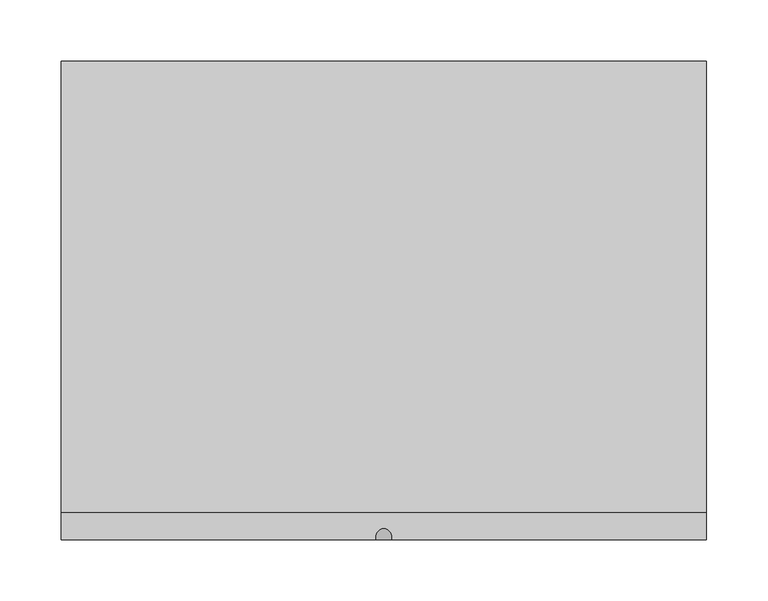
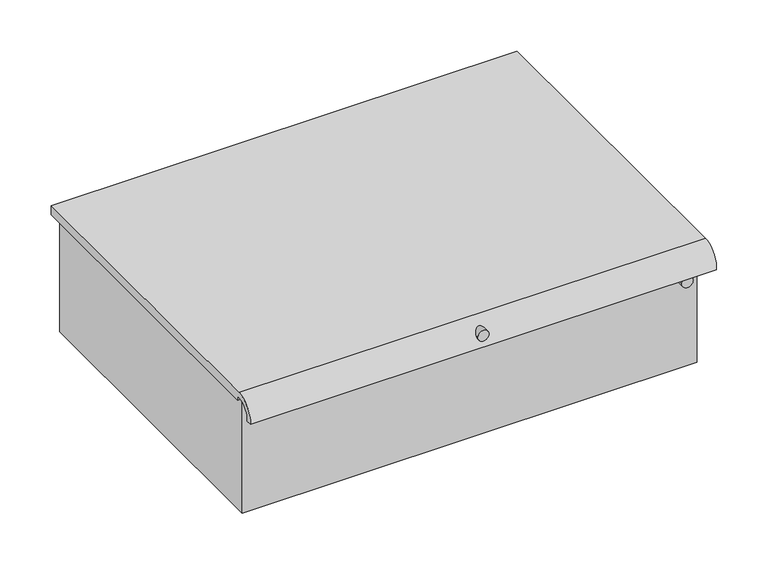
"""IFC4 building model written with IfcOpenShell, lengths in millimetres: furniture geometry."""

import ifcopenshell
import ifcopenshell.guid

model = None  # the IFC model being written
_history = None  # IfcOwnerHistory: only IFC2X3 demands one
_inside = {}  # id of a spatial element -> (the spatial element, [elements in it])
_under = {}  # id of a project, library or spatial element -> (it, [spatial elements below it])
_declared = {}  # id of a project -> (the project, [libraries it declares])
_typed = {}  # id of a type object -> (the type object, [elements of that type])
_made_of = {}  # id of a material, layer set ... -> (it, [elements and type objects made of it])


def new_model(schema):
    """Start an empty IFC model of exactly this schema.

    Asked for "IFC4X3", IfcOpenShell would pick the latest addendum, in which some entities
    have other attributes; the version numbers below select the first issue.
    IFC2X3 requires an IfcOwnerHistory on every rooted entity: one is made here for all.
    """
    global model, _history
    if schema == "IFC4X3":
        model = ifcopenshell.file(schema_version=(4, 3, 0, 0))
    else:
        model = ifcopenshell.file(schema=schema)
    _inside.clear()
    _under.clear()
    _declared.clear()
    _typed.clear()
    _made_of.clear()
    _history = None
    if model.schema == "IFC2X3":
        org = make("IfcOrganization", Name="unknown")
        user = make(
            "IfcPersonAndOrganization",
            ThePerson=make("IfcPerson", FamilyName="unknown"),
            TheOrganization=org,
        )
        app = make(
            "IfcApplication",
            ApplicationDeveloper=org,
            Version="unknown",
            ApplicationFullName="unknown",
            ApplicationIdentifier="unknown",
        )
        _history = make(
            "IfcOwnerHistory",
            OwningUser=user,
            OwningApplication=app,
            ChangeAction="ADDED",
            CreationDate=0,
        )
    return model


def make(cls, **values):
    """One entity of the class cls with the attributes given. An attribute that is None is left unset."""
    return model.create_entity(
        cls, **{name: value for name, value in values.items() if value is not None}
    )


def rooted(cls, **values):
    """An entity with a GlobalId (a new one), such as an element, a storey or a relation."""
    return make(cls, GlobalId=ifcopenshell.guid.new(), OwnerHistory=_history, **values)


def si_unit(unit_type, name, prefix=None):
    """IfcSIUnit, for example si_unit("LENGTHUNIT", "METRE", prefix="MILLI")."""
    return make("IfcSIUnit", UnitType=unit_type, Prefix=prefix, Name=name)


def assignment(units):
    """IfcUnitAssignment: the units of a project."""
    return None if units is None else make("IfcUnitAssignment", Units=units)


def point(xyz):
    """IfcCartesianPoint."""
    return None if xyz is None else make("IfcCartesianPoint", Coordinates=xyz)


def direction(xyz):
    """IfcDirection."""
    return None if xyz is None else make("IfcDirection", DirectionRatios=xyz)


def frame(location, z_axis=None, x_axis=None):
    """IfcAxis2Placement3D, a coordinate frame: its origin and axes. An axis left out is left unset."""
    return make(
        "IfcAxis2Placement3D",
        Location=point(location),
        Axis=direction(z_axis),
        RefDirection=direction(x_axis),
    )


def frame_2d(location, x_axis=None):
    """IfcAxis2Placement2D, a coordinate frame in the plane: its origin and x axis."""
    return make(
        "IfcAxis2Placement2D", Location=point(location), RefDirection=direction(x_axis)
    )


def origin():
    """The frame at (0, 0, 0) with its axes left unset."""
    return frame((0.0, 0.0, 0.0))


def place(relative_to, where):
    """IfcLocalPlacement: puts the frame where relative to a parent placement (None: the world)."""
    return make(
        "IfcLocalPlacement", PlacementRelTo=relative_to, RelativePlacement=where
    )


def context(
    kind, dimensions, precision=None, world=None, true_north=None, identifier=None
):
    """IfcGeometricRepresentationContext, for example the 3D "Model" context."""
    return make(
        "IfcGeometricRepresentationContext",
        ContextIdentifier=identifier,
        ContextType=kind,
        CoordinateSpaceDimension=dimensions,
        Precision=precision,
        WorldCoordinateSystem=world,
        TrueNorth=true_north,
    )


def project(units=None, contexts=None):
    """IfcProject with its units and contexts."""
    return rooted(
        "IfcProject",
        Name="project",
        RepresentationContexts=contexts,
        UnitsInContext=assignment(units),
    )


def spatial(cls, under=None, at=None, **own):
    """A site, building, storey or space (cls), placed at a placement, below another one or the project."""
    s = rooted(cls, ObjectPlacement=at, **own)
    if under is not None:
        _under.setdefault(under.id(), (under, []))[1].append(s)
    return s


def polyline(points):
    """IfcPolyline through the points."""
    return make("IfcPolyline", Points=[point(p) for p in points])


def circle_curve(where, radius):
    """IfcCircle in the frame where."""
    return make("IfcCircle", Position=where, Radius=radius)


def trimmed(basis, trim1, trim2, sense, master):
    """IfcTrimmedCurve: the piece of a basis curve between two trims."""
    return make(
        "IfcTrimmedCurve",
        BasisCurve=basis,
        Trim1=trim1,
        Trim2=trim2,
        SenseAgreement=sense,
        MasterRepresentation=master,
    )


def segment(curve, same_sense, transition):
    """IfcCompositeCurveSegment."""
    return make(
        "IfcCompositeCurveSegment",
        Transition=transition,
        SameSense=same_sense,
        ParentCurve=curve,
    )


def composite_curve(segments, self_intersect=None):
    """IfcCompositeCurve: segments joined end to end."""
    return make("IfcCompositeCurve", Segments=segments, SelfIntersect=self_intersect)


def outline(outer, holes=None, kind="AREA"):
    """IfcArbitraryClosedProfileDef: a profile drawn as a closed curve; with holes, ...WithVoids."""
    if holes is None:
        return make("IfcArbitraryClosedProfileDef", ProfileType=kind, OuterCurve=outer)
    return make(
        "IfcArbitraryProfileDefWithVoids",
        ProfileType=kind,
        OuterCurve=outer,
        InnerCurves=holes,
    )


def extrude(swept, where, along, depth):
    """IfcExtrudedAreaSolid: the profile swept, set in the frame where, extruded along a direction by depth."""
    return make(
        "IfcExtrudedAreaSolid",
        SweptArea=swept,
        Position=where,
        ExtrudedDirection=direction(along),
        Depth=depth,
    )


def shape(context_of_items, identifier, shape_type, items):
    """IfcShapeRepresentation: the items that make up one representation, for example the "Body"."""
    return make(
        "IfcShapeRepresentation",
        ContextOfItems=context_of_items,
        RepresentationIdentifier=identifier,
        RepresentationType=shape_type,
        Items=items,
    )


def source(mapping_origin, context_of_items, identifier, shape_type, items):
    """IfcRepresentationMap: a shape defined once, which mapped items show again and again."""
    return make(
        "IfcRepresentationMap",
        MappingOrigin=mapping_origin,
        MappedRepresentation=shape(context_of_items, identifier, shape_type, items),
    )


def transform(
    local_origin,
    x_axis=None,
    y_axis=None,
    z_axis=None,
    scale=None,
    scale2=None,
    scale3=None,
    uniform=True,
):
    """IfcCartesianTransformationOperator3D, or its non-uniform kind. x_axis, y_axis, z_axis: its Axis1, 2, 3."""
    if uniform:
        return make(
            "IfcCartesianTransformationOperator3D",
            Axis1=direction(x_axis),
            Axis2=direction(y_axis),
            LocalOrigin=point(local_origin),
            Scale=scale,
            Axis3=direction(z_axis),
        )
    return make(
        "IfcCartesianTransformationOperator3DnonUniform",
        Axis1=direction(x_axis),
        Axis2=direction(y_axis),
        LocalOrigin=point(local_origin),
        Scale=scale,
        Axis3=direction(z_axis),
        Scale2=scale2,
        Scale3=scale3,
    )


def mapped(mapping_source, mapping_target):
    """IfcMappedItem: shows the shape of a source again, moved by a transform."""
    return make(
        "IfcMappedItem", MappingSource=mapping_source, MappingTarget=mapping_target
    )


def made_of(thing, what):
    """Note that an element or type object is made of a material, layer set ...; save() writes the relation."""
    if what is not None:
        _made_of.setdefault(what.id(), (what, []))[1].append(thing)
    return thing


def element(
    cls,
    number,
    at=None,
    inside=None,
    cuts=None,
    type_object=None,
    material=None,
    context=None,
    identifier="Body",
    shape_type=None,
    held_by="IfcProductDefinitionShape",
    body=None,
    shapes=None,
    **own,
):
    """One element of the class cls, such as IfcWall. Its Tag is "e" and its number.

    at: its placement. inside: the storey or other place that contains it. cuts: it is an
    opening in that element (IfcRelVoidsElement). A single representation is given by context,
    identifier, shape_type and body (its items); several are given by shapes. held_by: the class
    of the entity that holds the representations. save() writes the other relations.
    """
    e = rooted(cls, Tag="e%d" % number, ObjectPlacement=at, **own)
    if body is not None:
        shapes = [shape(context, identifier, shape_type, body)]
    if shapes is not None:
        e.Representation = make(held_by, Representations=shapes)
    if inside is not None:
        _inside.setdefault(inside.id(), (inside, []))[1].append(e)
    if cuts is not None:
        rooted(
            "IfcRelVoidsElement", RelatingBuildingElement=cuts, RelatedOpeningElement=e
        )
    if type_object is not None:
        _typed.setdefault(type_object.id(), (type_object, []))[1].append(e)
    return made_of(e, material)


def aggregate(whole, parts):
    """IfcRelAggregates: a whole, such as a stair, and the parts it consists of."""
    return rooted("IfcRelAggregates", RelatingObject=whole, RelatedObjects=parts)


def save(model, path):
    """Write the relations noted so far, then the file.

    IfcRelAggregates (storeys below a building ...), IfcRelContainedInSpatialStructure (elements
    in a storey), IfcRelDefinesByType, IfcRelAssociatesMaterial and IfcRelDeclares: one each for
    every whole, place, type object, material and project.
    """
    for whole, parts in _under.values():
        aggregate(whole, parts)
    for where, things in _inside.values():
        rooted(
            "IfcRelContainedInSpatialStructure",
            RelatedElements=things,
            RelatingStructure=where,
        )
    for kind, things in _typed.values():
        rooted("IfcRelDefinesByType", RelatedObjects=things, RelatingType=kind)
    for what, things in _made_of.values():
        rooted("IfcRelAssociatesMaterial", RelatedObjects=things, RelatingMaterial=what)
    for by, libraries in _declared.values():
        rooted("IfcRelDeclares", RelatingContext=by, RelatedDefinitions=libraries)
    model.write(path)


def plane_surface(at):
    """IfcPlane: the flat surface through the origin of the frame at, square to its z axis."""
    return make("IfcPlane", Position=at)


def cylinder_surface(at, radius):
    """IfcCylindricalSurface: all points at the distance radius from the z axis of the frame at."""
    return make("IfcCylindricalSurface", Position=at, Radius=radius)


def revolved_surface(curve, axis_point, axis_direction):
    """IfcSurfaceOfRevolution: the curve turned about the line through axis_point along axis_direction."""
    return make(
        "IfcSurfaceOfRevolution",
        SweptCurve=make("IfcArbitraryOpenProfileDef", ProfileType="CURVE", Curve=curve),
        AxisPosition=make("IfcAxis1Placement", Location=point(axis_point), Axis=direction(axis_direction)),
    )


def advanced_brep(points, edges, surfaces, faces):
    """IfcAdvancedBrep: a solid bounded by faces that lie on surfaces and meet in shared edges.

    An edge is (start, end): straight between two places in points (the first is 0);
    or (start, end, curve); or (start, end, curve, False) where it runs against its curve.
    A face is (place in surfaces, loops), or (place, loops, False) where it looks against
    its surface's normal. A loop lists edges by number (the first is 1), with a minus sign
    where the edge is run from its end to its start. The first loop is the outer one.
    """
    corners = [point(p) for p in points]
    vertices = [make("IfcVertexPoint", VertexGeometry=c) for c in corners]
    made = []
    for start, end, *more in edges:
        made.append(
            make(
                "IfcEdgeCurve",
                EdgeStart=vertices[start],
                EdgeEnd=vertices[end],
                EdgeGeometry=more[0] if more else make("IfcPolyline", Points=[corners[start], corners[end]]),
                SameSense=more[1] if len(more) > 1 else True,
            )
        )
    hull = []
    for where, loops, *sense in faces:
        bounds = []
        for j, loop in enumerate(loops):
            ring = [make("IfcOrientedEdge", EdgeElement=made[abs(k) - 1], Orientation=k > 0) for k in loop]
            bounds.append(
                make(
                    "IfcFaceOuterBound" if j == 0 else "IfcFaceBound",
                    Bound=make("IfcEdgeLoop", EdgeList=ring),
                    Orientation=True,
                )
            )
        hull.append(make("IfcAdvancedFace", Bounds=bounds, FaceSurface=surfaces[where], SameSense=sense[0] if sense else True))
    return make("IfcAdvancedBrep", Outer=make("IfcClosedShell", CfsFaces=hull))


def furniture_08e813b6(model_context):
    return source(origin(), model_context, "Body", "SolidModel", [
        extrude(outline(composite_curve([segment(trimmed(circle_curve(frame_2d((1266.7361, 231.9974999)), 6.35), [point((1266.7361, 238.3474999))], [point((1266.7361, 225.6474999))], False, "CARTESIAN"), True, "CONTINUOUS"), segment(trimmed(circle_curve(frame_2d((1266.7361, 231.9974999)), 6.35), [point((1266.7361, 225.6474999))], [point((1266.7361, 238.3474999))], False, "CARTESIAN"), True, "CONTINUOUS")], self_intersect=False)), frame((0.0, -182.5625, 0.0), z_axis=(0.0, 1.0, 0.0), x_axis=(0.0, 0.0, 1.0)), (0.0, 0.0, 1.0), 14.3002),
        extrude(outline(composite_curve([segment(trimmed(circle_curve(frame_2d((1293.7363, -6.1275001)), 6.35), [point((1293.7363, 0.2224999))], [point((1293.7363, -12.4775001))], False, "CARTESIAN"), True, "CONTINUOUS"), segment(trimmed(circle_curve(frame_2d((1293.7363, -6.1275001)), 6.35), [point((1293.7363, -12.4775001))], [point((1293.7363, 0.2224999))], False, "CARTESIAN"), True, "CONTINUOUS")], self_intersect=False)), frame((0.0, -195.2625, 0.0), z_axis=(0.0, 1.0, 0.0), x_axis=(0.0, 0.0, 1.0)), (0.0, 0.0, 1.0), 27.0002),
        advanced_brep(
        [(-263.3025001, -168.2623, 1155.6111), (251.0474999, -168.2623, 1155.6111), (251.0474999, -168.2623, 1293.7363), (-263.3025001, -168.2623, 1293.7363), (251.0474999, 188.9125, 1155.6111), (-263.3025001, 188.9125, 1155.6111), (-263.3025001, 188.9125, 1293.7363), (251.0474999, 188.9125, 1293.7363), (257.3974999, -173.1367188, 1304.8361), (257.3974999, 195.2625, 1304.8361), (-269.6525001, 195.2625, 1304.8361), (-269.6525001, -173.1367188, 1304.8361), (257.3974999, -195.2625, 1280.19302), (257.3974999, -188.8606628, 1280.19302), (257.3974999, -173.1367188, 1298.4861), (257.3974999, -169.8625, 1298.4861), (257.3974999, -169.8625, 1293.7363), (257.3974999, 195.2625, 1293.7363), (-269.6525001, 195.2625, 1293.7363), (-269.6525001, -169.8625, 1293.7363), (-269.6525001, -169.8625, 1298.4861), (-269.6525001, -173.1367188, 1298.4861), (-269.6525001, -188.8606628, 1280.19302), (-269.6525001, -195.2625, 1280.19302)],
        [
            (0, 1),
            (1, 2),
            (2, 3),
            (3, 0),
            (4, 5),
            (5, 6),
            (6, 7),
            (7, 4),
            (0, 5),
            (4, 1),
            (7, 2),
            (8, 9),
            (9, 10),
            (10, 11),
            (11, 8),
            (3, 6),
            (8, 12, circle_curve(frame((257.3974999, -173.1367188, 1282.5817473), z_axis=(1.0, 0.0, 0.0), x_axis=(0.0, 1.0, 0.0)), 22.2543527)),
            (12, 13),
            (13, 14, circle_curve(frame((257.3974999, -173.1367188, 1282.5817473), z_axis=(-1.0, 0.0, 0.0), x_axis=(0.0, 1.0, 0.0)), 15.9043527)),
            (14, 15),
            (15, 16),
            (16, 17),
            (17, 9),
            (10, 18),
            (18, 19),
            (19, 20),
            (20, 21),
            (21, 22, circle_curve(frame((-269.6525001, -173.1367188, 1282.5817473), z_axis=(1.0, 0.0, 0.0), x_axis=(0.0, 1.0, 0.0)), 15.9043527)),
            (22, 23),
            (23, 11, circle_curve(frame((-269.6525001, -173.1367188, 1282.5817473), z_axis=(-1.0, 0.0, 0.0), x_axis=(0.0, 1.0, 0.0)), 22.2543527)),
            (23, 12),
            (22, 13),
            (21, 14),
            (20, 15),
            (19, 16),
            (18, 17),
        ],
        [
            plane_surface(frame((251.0474999, -168.2623, 1155.6111), z_axis=(0.0, -1.0, 0.0), x_axis=(1.0, 0.0, 0.0))),
            plane_surface(frame((251.0474999, 188.9125, 1155.6111), z_axis=(0.0, 1.0, 0.0), x_axis=(-1.0, 0.0, 0.0))),
            plane_surface(frame((-263.3025001, -168.2623, 1155.6111), z_axis=(0.0, 0.0, -1.0), x_axis=(0.0, 1.0, 0.0))),
            plane_surface(frame((251.0474999, -168.2623, 1155.6111), z_axis=(1.0, 0.0, 0.0), x_axis=(0.0, 1.0, 0.0))),
            plane_surface(frame((251.0474999, -168.2623, 1304.8361), z_axis=(0.0, 0.0, 1.0), x_axis=(0.0, 1.0, 0.0))),
            plane_surface(frame((-263.3025001, -168.2623, 1304.8361), z_axis=(-1.0, 0.0, 0.0), x_axis=(0.0, 1.0, 0.0))),
            plane_surface(frame((257.3974999, 195.2625, 1304.8361), z_axis=(1.0, 0.0, 0.0), x_axis=(0.0, -1.0, 0.0))),
            plane_surface(frame((-269.6525001, 195.2625, 1304.8361), z_axis=(-1.0, 0.0, 0.0), x_axis=(0.0, 1.0, 0.0))),
            cylinder_surface(frame((-269.6525001, -173.1367188, 1282.5817473), z_axis=(1.0, 0.0, 0.0), x_axis=(0.0, 1.0, 0.0)), 22.2543527),
            plane_surface(frame((257.3974999, -195.2625, 1280.19302), z_axis=(0.0, 0.0, -1.0), x_axis=(-1.0, 0.0, 0.0))),
            revolved_surface(polyline([(-269.6525001, -157.2323661, 1282.5817473), (257.39749989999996, -157.2323661, 1282.5817473)]), (-269.6525001, -173.1367188, 1282.5817473), (-1.0, 0.0, 0.0)),
            plane_surface(frame((257.3974999, -173.1367188, 1298.4861), z_axis=(0.0, 0.0, -1.0), x_axis=(-1.0, 0.0, 0.0))),
            plane_surface(frame((257.3974999, -169.8625, 1298.4861), z_axis=(0.0, -1.0, 0.0), x_axis=(-1.0, 0.0, 0.0))),
            plane_surface(frame((257.3974999, -169.8625, 1293.7363), z_axis=(0.0, 0.0, -1.0), x_axis=(-1.0, 0.0, 0.0))),
            plane_surface(frame((257.3974999, 195.2625, 1293.7363), z_axis=(0.0, 1.0, 0.0), x_axis=(-1.0, 0.0, 0.0))),
        ],
        [
            (0, [[1, 2, 3, 4]]),
            (1, [[5, 6, 7, 8]]),
            (2, [[-1, 9, -5, 10]]),
            (3, [[-10, -8, 11, -2]]),
            (4, [[12, 13, 14, 15]]),
            (5, [[-9, -4, 16, -6]]),
            (6, [[-12, 17, 18, 19, 20, 21, 22, 23]]),
            (7, [[24, 25, 26, 27, 28, 29, 30, -14]]),
            (8, [[-17, -15, -30, 31]]),
            (9, [[-18, -31, -29, 32]]),
            (10, [[-19, -32, -28, 33]]),
            (11, [[-20, -33, -27, 34]]),
            (12, [[-21, -34, -26, 35]]),
            (13, [[-22, -35, -25, 36], [-3, -11, -7, -16]]),
            (14, [[-23, -36, -24, -13]]),
        ],
    ),
    ])


if __name__ == "__main__":
    model = new_model("IFC4")
    model_context = context("Model", 3, world=origin())
    ifc_project = project(units=[si_unit("LENGTHUNIT", "METRE", prefix="MILLI")], contexts=[model_context])
    site = spatial("IfcSite", under=ifc_project)
    building = spatial("IfcBuilding", under=site)
    placement = place(None, origin())
    furniture_shape = furniture_08e813b6(model_context)
    element("IfcFurniture", 1, ObjectType="HermanMiller_CoStruc_CO371_LockedDrawerWithLockableLid : B - 6\"H x 15\"D x 20\"W Lid Wlock", at=placement, inside=building, context=model_context, shape_type="MappedRepresentation", body=[
        mapped(furniture_shape, transform((0.0, 0.0, 0.0), x_axis=(1.0, 0.0, 0.0), y_axis=(0.0, 1.0, 0.0), z_axis=(0.0, 0.0, 1.0))),
    ])
    save(model, "model.ifc")
